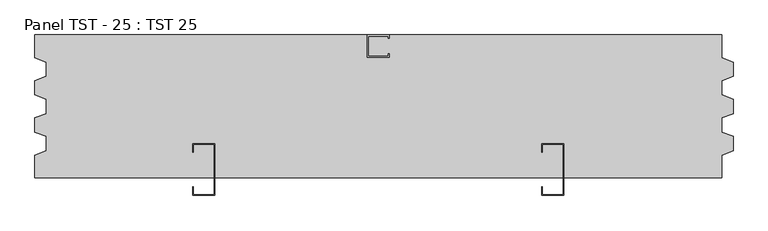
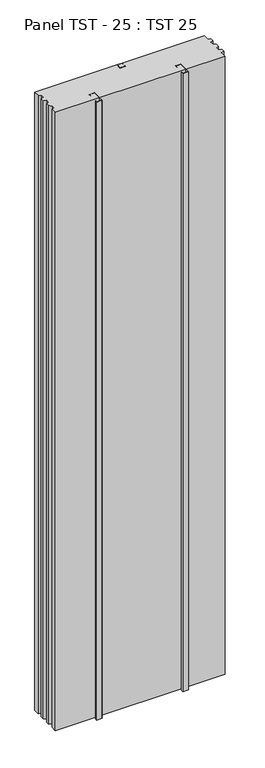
"""IFC4 building model written with IfcOpenShell, lengths in millimetres: plate geometry, Panel TST - 25 : TST 25."""

import ifcopenshell
import ifcopenshell.guid

model = None  # the IFC model being written
_history = None  # IfcOwnerHistory: only IFC2X3 demands one
_inside = {}  # id of a spatial element -> (the spatial element, [elements in it])
_under = {}  # id of a project, library or spatial element -> (it, [spatial elements below it])
_declared = {}  # id of a project -> (the project, [libraries it declares])
_typed = {}  # id of a type object -> (the type object, [elements of that type])
_made_of = {}  # id of a material, layer set ... -> (it, [elements and type objects made of it])


def new_model(schema):
    """Start an empty IFC model of exactly this schema.

    Asked for "IFC4X3", IfcOpenShell would pick the latest addendum, in which some entities
    have other attributes; the version numbers below select the first issue.
    IFC2X3 requires an IfcOwnerHistory on every rooted entity: one is made here for all.
    """
    global model, _history
    if schema == "IFC4X3":
        model = ifcopenshell.file(schema_version=(4, 3, 0, 0))
    else:
        model = ifcopenshell.file(schema=schema)
    _inside.clear()
    _under.clear()
    _declared.clear()
    _typed.clear()
    _made_of.clear()
    _history = None
    if model.schema == "IFC2X3":
        org = make("IfcOrganization", Name="unknown")
        user = make(
            "IfcPersonAndOrganization",
            ThePerson=make("IfcPerson", FamilyName="unknown"),
            TheOrganization=org,
        )
        app = make(
            "IfcApplication",
            ApplicationDeveloper=org,
            Version="unknown",
            ApplicationFullName="unknown",
            ApplicationIdentifier="unknown",
        )
        _history = make(
            "IfcOwnerHistory",
            OwningUser=user,
            OwningApplication=app,
            ChangeAction="ADDED",
            CreationDate=0,
        )
    return model


def make(cls, **values):
    """One entity of the class cls with the attributes given. An attribute that is None is left unset."""
    return model.create_entity(
        cls, **{name: value for name, value in values.items() if value is not None}
    )


def rooted(cls, **values):
    """An entity with a GlobalId (a new one), such as an element, a storey or a relation."""
    return make(cls, GlobalId=ifcopenshell.guid.new(), OwnerHistory=_history, **values)


def si_unit(unit_type, name, prefix=None):
    """IfcSIUnit, for example si_unit("LENGTHUNIT", "METRE", prefix="MILLI")."""
    return make("IfcSIUnit", UnitType=unit_type, Prefix=prefix, Name=name)


def assignment(units):
    """IfcUnitAssignment: the units of a project."""
    return None if units is None else make("IfcUnitAssignment", Units=units)


def point(xyz):
    """IfcCartesianPoint."""
    return None if xyz is None else make("IfcCartesianPoint", Coordinates=xyz)


def direction(xyz):
    """IfcDirection."""
    return None if xyz is None else make("IfcDirection", DirectionRatios=xyz)


def frame(location, z_axis=None, x_axis=None):
    """IfcAxis2Placement3D, a coordinate frame: its origin and axes. An axis left out is left unset."""
    return make(
        "IfcAxis2Placement3D",
        Location=point(location),
        Axis=direction(z_axis),
        RefDirection=direction(x_axis),
    )


def origin():
    """The frame at (0, 0, 0) with its axes left unset."""
    return frame((0.0, 0.0, 0.0))


def origin_with_axes():
    """The frame at (0, 0, 0) with the z axis (0, 0, 1) and the x axis (1, 0, 0) written out."""
    return frame((0.0, 0.0, 0.0), z_axis=(0.0, 0.0, 1.0), x_axis=(1.0, 0.0, 0.0))


def place(relative_to, where):
    """IfcLocalPlacement: puts the frame where relative to a parent placement (None: the world)."""
    return make(
        "IfcLocalPlacement", PlacementRelTo=relative_to, RelativePlacement=where
    )


def context(
    kind, dimensions, precision=None, world=None, true_north=None, identifier=None
):
    """IfcGeometricRepresentationContext, for example the 3D "Model" context."""
    return make(
        "IfcGeometricRepresentationContext",
        ContextIdentifier=identifier,
        ContextType=kind,
        CoordinateSpaceDimension=dimensions,
        Precision=precision,
        WorldCoordinateSystem=world,
        TrueNorth=true_north,
    )


def project(units=None, contexts=None):
    """IfcProject with its units and contexts."""
    return rooted(
        "IfcProject",
        Name="project",
        RepresentationContexts=contexts,
        UnitsInContext=assignment(units),
    )


def spatial(cls, under=None, at=None, **own):
    """A site, building, storey or space (cls), placed at a placement, below another one or the project."""
    s = rooted(cls, ObjectPlacement=at, **own)
    if under is not None:
        _under.setdefault(under.id(), (under, []))[1].append(s)
    return s


def polyline(points):
    """IfcPolyline through the points."""
    return make("IfcPolyline", Points=[point(p) for p in points])


def outline(outer, holes=None, kind="AREA"):
    """IfcArbitraryClosedProfileDef: a profile drawn as a closed curve; with holes, ...WithVoids."""
    if holes is None:
        return make("IfcArbitraryClosedProfileDef", ProfileType=kind, OuterCurve=outer)
    return make(
        "IfcArbitraryProfileDefWithVoids",
        ProfileType=kind,
        OuterCurve=outer,
        InnerCurves=holes,
    )


def extrude(swept, where, along, depth):
    """IfcExtrudedAreaSolid: the profile swept, set in the frame where, extruded along a direction by depth."""
    return make(
        "IfcExtrudedAreaSolid",
        SweptArea=swept,
        Position=where,
        ExtrudedDirection=direction(along),
        Depth=depth,
    )


def shape(context_of_items, identifier, shape_type, items):
    """IfcShapeRepresentation: the items that make up one representation, for example the "Body"."""
    return make(
        "IfcShapeRepresentation",
        ContextOfItems=context_of_items,
        RepresentationIdentifier=identifier,
        RepresentationType=shape_type,
        Items=items,
    )


def source(mapping_origin, context_of_items, identifier, shape_type, items):
    """IfcRepresentationMap: a shape defined once, which mapped items show again and again."""
    return make(
        "IfcRepresentationMap",
        MappingOrigin=mapping_origin,
        MappedRepresentation=shape(context_of_items, identifier, shape_type, items),
    )


def transform(
    local_origin,
    x_axis=None,
    y_axis=None,
    z_axis=None,
    scale=None,
    scale2=None,
    scale3=None,
    uniform=True,
):
    """IfcCartesianTransformationOperator3D, or its non-uniform kind. x_axis, y_axis, z_axis: its Axis1, 2, 3."""
    if uniform:
        return make(
            "IfcCartesianTransformationOperator3D",
            Axis1=direction(x_axis),
            Axis2=direction(y_axis),
            LocalOrigin=point(local_origin),
            Scale=scale,
            Axis3=direction(z_axis),
        )
    return make(
        "IfcCartesianTransformationOperator3DnonUniform",
        Axis1=direction(x_axis),
        Axis2=direction(y_axis),
        LocalOrigin=point(local_origin),
        Scale=scale,
        Axis3=direction(z_axis),
        Scale2=scale2,
        Scale3=scale3,
    )


def mapped(mapping_source, mapping_target):
    """IfcMappedItem: shows the shape of a source again, moved by a transform."""
    return make(
        "IfcMappedItem", MappingSource=mapping_source, MappingTarget=mapping_target
    )


def made_of(thing, what):
    """Note that an element or type object is made of a material, layer set ...; save() writes the relation."""
    if what is not None:
        _made_of.setdefault(what.id(), (what, []))[1].append(thing)
    return thing


def element(
    cls,
    number,
    at=None,
    inside=None,
    cuts=None,
    type_object=None,
    material=None,
    context=None,
    identifier="Body",
    shape_type=None,
    held_by="IfcProductDefinitionShape",
    body=None,
    shapes=None,
    **own,
):
    """One element of the class cls, such as IfcWall. Its Tag is "e" and its number.

    at: its placement. inside: the storey or other place that contains it. cuts: it is an
    opening in that element (IfcRelVoidsElement). A single representation is given by context,
    identifier, shape_type and body (its items); several are given by shapes. held_by: the class
    of the entity that holds the representations. save() writes the other relations.
    """
    e = rooted(cls, Tag="e%d" % number, ObjectPlacement=at, **own)
    if body is not None:
        shapes = [shape(context, identifier, shape_type, body)]
    if shapes is not None:
        e.Representation = make(held_by, Representations=shapes)
    if inside is not None:
        _inside.setdefault(inside.id(), (inside, []))[1].append(e)
    if cuts is not None:
        rooted(
            "IfcRelVoidsElement", RelatingBuildingElement=cuts, RelatedOpeningElement=e
        )
    if type_object is not None:
        _typed.setdefault(type_object.id(), (type_object, []))[1].append(e)
    return made_of(e, material)


def aggregate(whole, parts):
    """IfcRelAggregates: a whole, such as a stair, and the parts it consists of."""
    return rooted("IfcRelAggregates", RelatingObject=whole, RelatedObjects=parts)


def save(model, path):
    """Write the relations noted so far, then the file.

    IfcRelAggregates (storeys below a building ...), IfcRelContainedInSpatialStructure (elements
    in a storey), IfcRelDefinesByType, IfcRelAssociatesMaterial and IfcRelDeclares: one each for
    every whole, place, type object, material and project.
    """
    for whole, parts in _under.values():
        aggregate(whole, parts)
    for where, things in _inside.values():
        rooted(
            "IfcRelContainedInSpatialStructure",
            RelatedElements=things,
            RelatingStructure=where,
        )
    for kind, things in _typed.values():
        rooted("IfcRelDefinesByType", RelatedObjects=things, RelatingType=kind)
    for what, things in _made_of.values():
        rooted("IfcRelAssociatesMaterial", RelatedObjects=things, RelatingMaterial=what)
    for by, libraries in _declared.values():
        rooted("IfcRelDeclares", RelatingContext=by, RelatedDefinitions=libraries)
    model.write(path)


def panel_tst_25_tst_25_e7ec8f1d(model_context):
    return source(origin(), model_context, "Body", "SweptSolid", [
        extrude(outline(polyline([(-19.5, 125.0), (19.5, 125.0), (19.5, 119.0), (17.5, 119.0), (17.5, 123.0), (-17.5, 123.0), (-17.5, 88.0), (17.5, 88.0), (17.5, 92.0), (19.5, 92.0), (19.5, 86.0), (-19.5, 86.0), (-19.5, 125.0)])), origin_with_axes(), (0.0, 0.0, 1.0), 4618.8021535),
        extrude(outline(polyline([(-324.0000002, -65.0), (-286.0000002, -65.0), (-286.0000002, -155.0), (-324.0000002, -155.0), (-324.0000002, -140.0), (-323.1500002, -140.0), (-323.1500002, -154.15), (-286.8500002, -154.15), (-286.8500002, -65.85), (-323.1500002, -65.85), (-323.1500002, -80.0), (-324.0000002, -80.0), (-324.0000002, -65.0)])), origin_with_axes(), (0.0, 0.0, 1.0), 4618.8021535),
        extrude(outline(polyline([(286.0000002, -65.0), (324.0000002, -65.0), (324.0000002, -155.0), (286.0000002, -155.0), (286.0000002, -140.0), (286.8500002, -140.0), (286.8500002, -154.15), (323.1500002, -154.15), (323.1500002, -65.85), (286.8500002, -65.85), (286.8500002, -80.0), (286.0000002, -80.0), (286.0000002, -65.0)])), origin_with_axes(), (0.0, 0.0, 1.0), 4618.8021535),
        extrude(outline(polyline([(-600.0000002, 20.0010038), (-600.0000002, 45.0010038), (-580.0000002, 52.5020076), (-580.0000002, 77.5020076), (-600.0000002, 85.0030113), (-600.0000002, 125.0), (600.0000002, 125.0), (600.0000002, 85.0030113), (620.0000002, 77.5020076), (620.0000002, 52.5020076), (600.0000002, 45.0010038), (600.0000002, 20.0010038), (620.0000002, 12.5), (620.0000002, -12.5), (600.0000002, -20.0010038), (600.0000002, -45.0010038), (620.0000002, -52.5020076), (620.0000002, -77.5020076), (600.0000002, -85.0030113), (600.0000002, -125.0), (-600.0000002, -125.0), (-600.0000002, -85.0030113), (-580.0000002, -77.5020076), (-580.0000002, -52.5020076), (-600.0000002, -45.0010038), (-600.0000002, -20.0010038), (-580.0000002, -12.5), (-580.0000002, 12.5), (-600.0000002, 20.0010038)])), origin_with_axes(), (0.0, 0.0, 1.0), 4618.8021535),
    ])


if __name__ == "__main__":
    model = new_model("IFC4")
    model_context = context("Model", 3, world=origin())
    ifc_project = project(units=[si_unit("LENGTHUNIT", "METRE", prefix="MILLI")], contexts=[model_context])
    site = spatial("IfcSite", under=ifc_project)
    building = spatial("IfcBuilding", under=site)
    placement = place(None, origin())
    panel_tst_25_tst_25_shape = panel_tst_25_tst_25_e7ec8f1d(model_context)
    element("IfcPlate", 1, ObjectType="Panel TST - 25 : TST 25", at=placement, inside=building, context=model_context, shape_type="MappedRepresentation", body=[
        mapped(panel_tst_25_tst_25_shape, transform((0.0, 0.0, 0.0), x_axis=(1.0, 0.0, 0.0), y_axis=(0.0, 1.0, 0.0), z_axis=(0.0, 0.0, 1.0))),
    ])
    save(model, "model.ifc")
